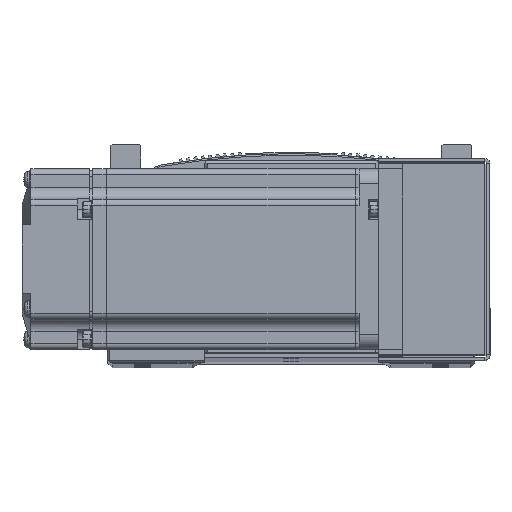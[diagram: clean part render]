
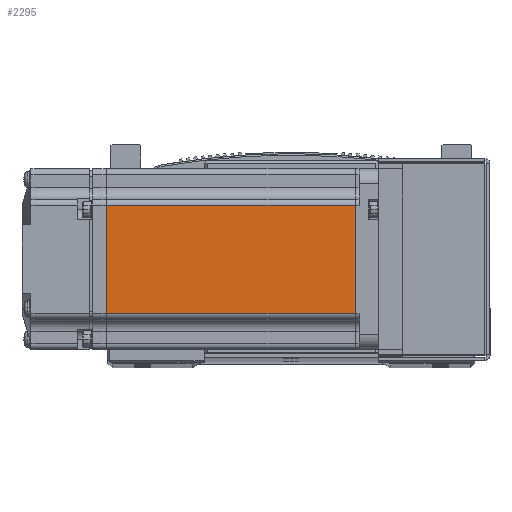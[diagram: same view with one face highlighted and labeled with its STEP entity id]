
A CAD part, top view. The second image highlights one B-rep face of the part: STEP entity #2295.
In plain terms, the highlighted planar face has unit normal (0, 0, 1) as drawn and (0, 1, 0) by its records, which use the part's own axes.
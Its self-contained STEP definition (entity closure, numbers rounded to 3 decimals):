
#2295 = ADVANCED_FACE ( 'NONE', ( #46047 ), #80309, .T. ) ;
#3359 = VERTEX_POINT ( 'NONE', #73412 ) ;
#3446 = VERTEX_POINT ( 'NONE', #73517 ) ;
#11019 = DIRECTION ( 'NONE',  ( 1., 0., 0. ) ) ;
#11024 = DIRECTION ( 'NONE',  ( 0., 0., 1. ) ) ;
#11061 = CARTESIAN_POINT ( 'NONE',  ( -7.75, 30., 0. ) ) ;
#11077 = CARTESIAN_POINT ( 'NONE',  ( -6.5, 30., 18. ) ) ;
#11096 = DIRECTION ( 'NONE',  ( -1., 0., 0. ) ) ;
#11183 = CARTESIAN_POINT ( 'NONE',  ( -6.5, 30., -18. ) ) ;
#11368 = DIRECTION ( 'NONE',  ( 0., 0., 1. ) ) ;
#11401 = CARTESIAN_POINT ( 'NONE',  ( -90.45, 30., 0. ) ) ;
#17219 = LINE ( 'NONE', #11401, #17225 ) ;
#17225 = VECTOR ( 'NONE', #11368, 1000. ) ;
#18629 = VECTOR ( 'NONE', #11024, 1000. ) ;
#18636 = LINE ( 'NONE', #11077, #18665 ) ;
#18645 = VECTOR ( 'NONE', #11096, 1000. ) ;
#18665 = VECTOR ( 'NONE', #11019, 1000. ) ;
#18669 = LINE ( 'NONE', #11183, #18645 ) ;
#18672 = LINE ( 'NONE', #11061, #18629 ) ;
#23324 = AXIS2_PLACEMENT_3D ( 'NONE', #80310, #80346, #80357 ) ;
#46047 = FACE_OUTER_BOUND ( 'NONE', #64528, .T. ) ;
#48730 = CARTESIAN_POINT ( 'NONE',  ( -90.45, 30., -18. ) ) ;
#52686 = VERTEX_POINT ( 'NONE', #48730 ) ;
#64528 = EDGE_LOOP ( 'NONE', ( #69564, #69680, #69754, #69723 ) ) ;
#67773 = EDGE_CURVE ( 'NONE', #76204, #3359, #18672, .T. ) ;
#67776 = EDGE_CURVE ( 'NONE', #3446, #3359, #18636, .T. ) ;
#67796 = EDGE_CURVE ( 'NONE', #76204, #52686, #18669, .T. ) ;
#67828 = EDGE_CURVE ( 'NONE', #52686, #3446, #17219, .T. ) ;
#69564 = ORIENTED_EDGE ( 'NONE', *, *, #67773, .F. ) ;
#69680 = ORIENTED_EDGE ( 'NONE', *, *, #67796, .T. ) ;
#69723 = ORIENTED_EDGE ( 'NONE', *, *, #67776, .T. ) ;
#69754 = ORIENTED_EDGE ( 'NONE', *, *, #67828, .T. ) ;
#73412 = CARTESIAN_POINT ( 'NONE',  ( -7.75, 30., 18. ) ) ;
#73517 = CARTESIAN_POINT ( 'NONE',  ( -90.45, 30., 18. ) ) ;
#76204 = VERTEX_POINT ( 'NONE', #81623 ) ;
#80309 = PLANE ( 'NONE',  #23324 ) ;
#80310 = CARTESIAN_POINT ( 'NONE',  ( -6.5, 30., 25. ) ) ;
#80346 = DIRECTION ( 'NONE',  ( 0., 1., 0. ) ) ;
#80357 = DIRECTION ( 'NONE',  ( 0., 0., 1. ) ) ;
#81623 = CARTESIAN_POINT ( 'NONE',  ( -7.75, 30., -18. ) ) ;
